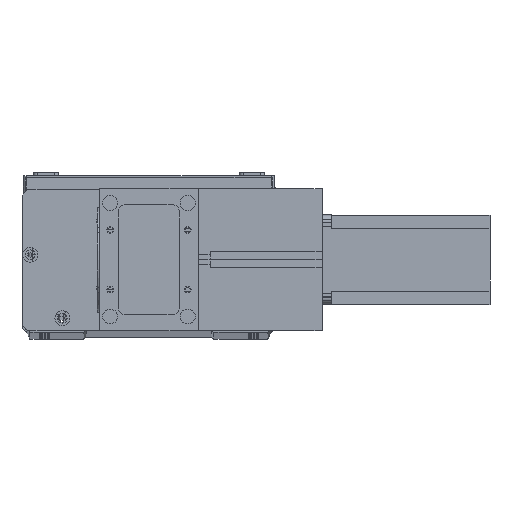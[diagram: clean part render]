
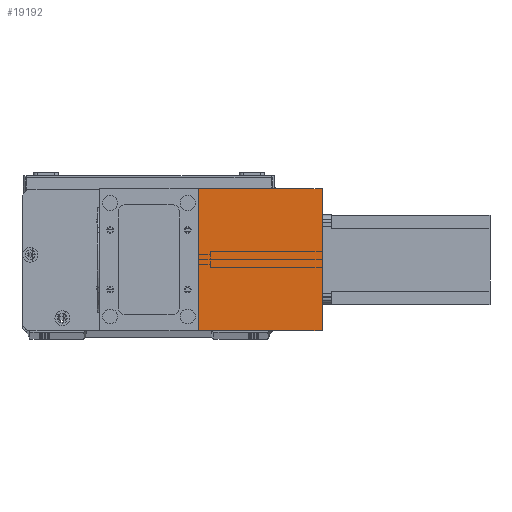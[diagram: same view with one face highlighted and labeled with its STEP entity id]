
A CAD part, top view. The second image highlights one B-rep face of the part: STEP entity #19192.
In plain terms, the highlighted planar face has unit normal (0, 0, 1) as drawn and (1, 0, 0) by its records, which use the part's own axes.
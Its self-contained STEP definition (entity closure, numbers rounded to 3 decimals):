
#1310 = CARTESIAN_POINT ( 'NONE',  ( 82., 0., 83. ) ) ;
#2054 = VECTOR ( 'NONE', #26724, 1000. ) ;
#2964 = VERTEX_POINT ( 'NONE', #13463 ) ;
#3683 = CARTESIAN_POINT ( 'NONE',  ( 82., 0., 83. ) ) ;
#3710 = DIRECTION ( 'NONE',  ( 0., 0., -1. ) ) ;
#6247 = EDGE_CURVE ( 'NONE', #16260, #26866, #15041, .T. ) ;
#6249 = PLANE ( 'NONE',  #24298 ) ;
#8693 = DIRECTION ( 'NONE',  ( 0., 0., 1. ) ) ;
#9411 = LINE ( 'NONE', #30790, #27492 ) ;
#10443 = EDGE_LOOP ( 'NONE', ( #23761, #17349, #21368, #22690 ) ) ;
#11559 = CARTESIAN_POINT ( 'NONE',  ( 82., 95., 0. ) ) ;
#13463 = CARTESIAN_POINT ( 'NONE',  ( 82., 95., 83. ) ) ;
#14295 = VECTOR ( 'NONE', #3710, 1000. ) ;
#14452 = EDGE_CURVE ( 'NONE', #26866, #25663, #20636, .T. ) ;
#15041 = LINE ( 'NONE', #3683, #14295 ) ;
#16055 = EDGE_CURVE ( 'NONE', #2964, #25663, #9411, .T. ) ;
#16260 = VERTEX_POINT ( 'NONE', #26911 ) ;
#16424 = CARTESIAN_POINT ( 'NONE',  ( 82., 0., 0. ) ) ;
#17300 = CARTESIAN_POINT ( 'NONE',  ( 82., 0., 83. ) ) ;
#17349 = ORIENTED_EDGE ( 'NONE', *, *, #16055, .F. ) ;
#17665 = EDGE_CURVE ( 'NONE', #16260, #2964, #21951, .T. ) ;
#19192 = ADVANCED_FACE ( 'NONE', ( #20430 ), #6249, .F. ) ;
#19629 = CARTESIAN_POINT ( 'NONE',  ( 82., 0., 0. ) ) ;
#20430 = FACE_OUTER_BOUND ( 'NONE', #10443, .T. ) ;
#20636 = LINE ( 'NONE', #19629, #25378 ) ;
#21368 = ORIENTED_EDGE ( 'NONE', *, *, #17665, .F. ) ;
#21951 = LINE ( 'NONE', #17300, #2054 ) ;
#22690 = ORIENTED_EDGE ( 'NONE', *, *, #6247, .T. ) ;
#22909 = DIRECTION ( 'NONE',  ( -1., 0., 0. ) ) ;
#23761 = ORIENTED_EDGE ( 'NONE', *, *, #14452, .T. ) ;
#24278 = DIRECTION ( 'NONE',  ( 0., 1., 0. ) ) ;
#24298 = AXIS2_PLACEMENT_3D ( 'NONE', #1310, #22909, #8693 ) ;
#25378 = VECTOR ( 'NONE', #24278, 1000. ) ;
#25663 = VERTEX_POINT ( 'NONE', #11559 ) ;
#26206 = DIRECTION ( 'NONE',  ( 0., 0., -1. ) ) ;
#26724 = DIRECTION ( 'NONE',  ( 0., 1., 0. ) ) ;
#26866 = VERTEX_POINT ( 'NONE', #16424 ) ;
#26911 = CARTESIAN_POINT ( 'NONE',  ( 82., 0., 83. ) ) ;
#27492 = VECTOR ( 'NONE', #26206, 1000. ) ;
#30790 = CARTESIAN_POINT ( 'NONE',  ( 82., 95., 83. ) ) ;
